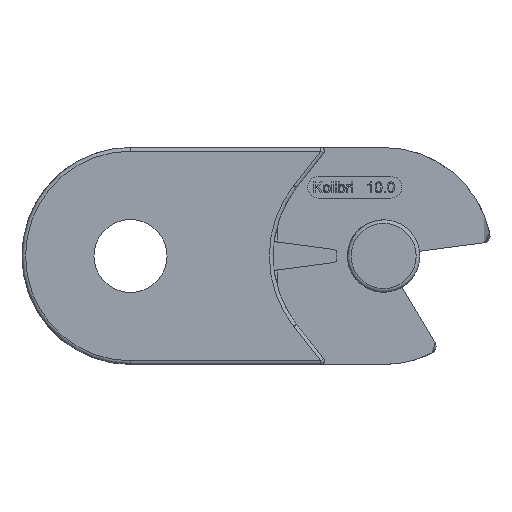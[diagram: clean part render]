
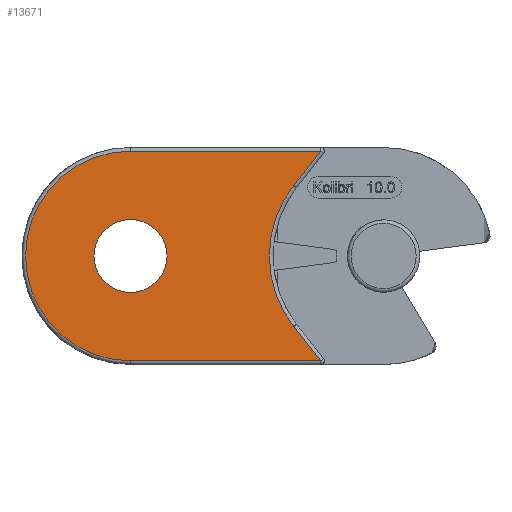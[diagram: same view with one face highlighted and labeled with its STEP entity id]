
A CAD part, left-side view. The second image highlights one B-rep face of the part: STEP entity #13671.
In plain terms, the highlighted planar face has unit normal (-1, 0, 0).
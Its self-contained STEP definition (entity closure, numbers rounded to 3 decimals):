
#1717=CARTESIAN_POINT('',(0.,-8.393,29.5));
#1718=VERTEX_POINT('',#1717);
#1742=CARTESIAN_POINT('',(0.,-8.393,0.5));
#1743=VERTEX_POINT('',#1742);
#1766=CARTESIAN_POINT('',(0.,-4.668,24.751));
#1767=VERTEX_POINT('',#1766);
#1782=CARTESIAN_POINT('',(0.,-4.668,24.751));
#1783=DIRECTION('',(0.0,-0.617,0.787));
#1784=VECTOR('',#1783,6.035);
#1785=LINE('',#1782,#1784);
#1786=EDGE_CURVE('',#1767,#1718,#1785,.T.);
#1798=CARTESIAN_POINT('',(0.,-4.668,5.249));
#1799=VERTEX_POINT('',#1798);
#1800=CARTESIAN_POINT('',(0.,-17.1,15.));
#1801=DIRECTION('',(1.0,0.,0.));
#1802=DIRECTION('',(0.,1.,0.));
#1803=AXIS2_PLACEMENT_3D('',#1800,#1801,#1802);
#1804=CIRCLE('',#1803,15.8);
#1805=EDGE_CURVE('',#1799,#1767,#1804,.T.);
#1830=CARTESIAN_POINT('',(0.,-8.393,0.5));
#1831=DIRECTION('',(0.0,0.617,0.787));
#1832=VECTOR('',#1831,6.035);
#1833=LINE('',#1830,#1832);
#1834=EDGE_CURVE('',#1743,#1799,#1833,.T.);
#10328=CARTESIAN_POINT('',(0.,12.85,15.));
#10329=VERTEX_POINT('',#10328);
#10330=CARTESIAN_POINT('',(0.,17.9,15.));
#10331=DIRECTION('',(-1.0,0.0,0.0));
#10332=DIRECTION('',(0.0,1.0,0.0));
#10333=AXIS2_PLACEMENT_3D('',#10330,#10331,#10332);
#10334=CIRCLE('',#10333,5.05);
#10335=EDGE_CURVE('',#10329,#10329,#10334,.T.);
#10628=CARTESIAN_POINT('',(0.,17.9,0.5));
#10629=VERTEX_POINT('',#10628);
#10646=CARTESIAN_POINT('',(0.,17.9,0.5));
#10647=DIRECTION('',(0.0,-1.0,0.0));
#10648=VECTOR('',#10647,26.293);
#10649=LINE('',#10646,#10648);
#10650=EDGE_CURVE('',#10629,#1743,#10649,.T.);
#10660=CARTESIAN_POINT('',(0.,17.9,29.5));
#10661=VERTEX_POINT('',#10660);
#10662=CARTESIAN_POINT('',(0.,17.9,15.));
#10663=DIRECTION('',(-1.0,0.0,0.0));
#10664=DIRECTION('',(0.0,1.0,0.0));
#10665=AXIS2_PLACEMENT_3D('',#10662,#10663,#10664);
#10666=CIRCLE('',#10665,14.5);
#10667=EDGE_CURVE('',#10661,#10629,#10666,.T.);
#10695=CARTESIAN_POINT('',(0.,-8.393,29.5));
#10696=DIRECTION('',(0.0,1.0,0.0));
#10697=VECTOR('',#10696,26.293);
#10698=LINE('',#10695,#10697);
#10699=EDGE_CURVE('',#1718,#10661,#10698,.T.);
#13655=CARTESIAN_POINT('',(0.,12.004,15.));
#13656=DIRECTION('',(-1.0,0.0,0.0));
#13657=DIRECTION('',(0.0,1.0,0.0));
#13658=AXIS2_PLACEMENT_3D('',#13655,#13656,#13657);
#13659=PLANE('',#13658);
#13660=ORIENTED_EDGE('',*,*,#10699,.T.);
#13661=ORIENTED_EDGE('',*,*,#10667,.T.);
#13662=ORIENTED_EDGE('',*,*,#10650,.T.);
#13663=ORIENTED_EDGE('',*,*,#1834,.T.);
#13664=ORIENTED_EDGE('',*,*,#1805,.T.);
#13665=ORIENTED_EDGE('',*,*,#1786,.T.);
#13666=EDGE_LOOP('',(#13660,#13661,#13662,#13663,#13664,#13665));
#13667=FACE_OUTER_BOUND('',#13666,.T.);
#13668=ORIENTED_EDGE('',*,*,#10335,.F.);
#13669=EDGE_LOOP('',(#13668));
#13670=FACE_BOUND('',#13669,.T.);
#13671=ADVANCED_FACE('',(#13667,#13670),#13659,.T.);
